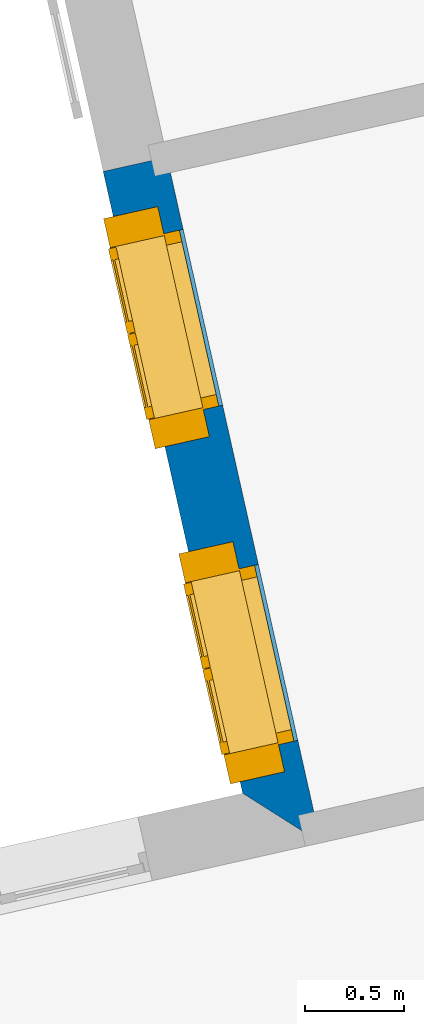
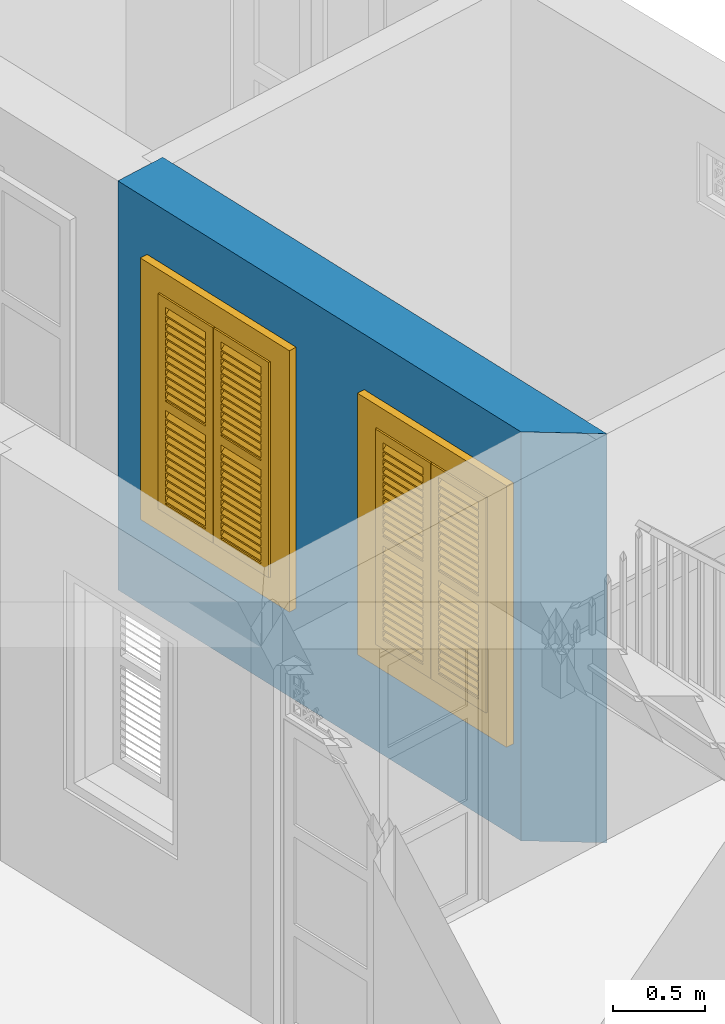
# One storey, part 7 of 13: 2 windows, 1 wall, 2 openings.
"""IFC4 building model written with IfcOpenShell, lengths in metres."""

from ifc_helpers import new_model, si_unit, frame, origin, origin_with_axes, place, context, subcontext, project, spatial, polyline, outline, extrude, faceted_brep, source, transform, mapped, material, layer, layer_set, layer_usage, type_object, type_shapes, element, fill, save


model = new_model("IFC4")

# Units and contexts
model_context = context("Model", 3, world=origin_with_axes())
body_context = subcontext(model_context, "Body", "Model", "MODEL_VIEW")
ifc_project = project(units=[si_unit("PLANEANGLEUNIT", "RADIAN"), si_unit("MASSUNIT", "GRAM", prefix="KILO"), si_unit("FORCEUNIT", "NEWTON", prefix="KILO"), si_unit("LENGTHUNIT", "METRE"), si_unit("AREAUNIT", "SQUARE_METRE"), si_unit("VOLUMEUNIT", "CUBIC_METRE")], contexts=[model_context, model_context])

# Site, building, storey
site_placement = place(None, origin_with_axes())
site = spatial("IfcSite", under=ifc_project, at=site_placement, Name="Site plot-10", CompositionType="ELEMENT")
building_placement = place(None, origin_with_axes())
building = spatial("IfcBuilding", under=site, at=building_placement, Name="Building plot-10", CompositionType="ELEMENT")
storey_placement = place(None, origin_with_axes())
storey = spatial("IfcBuildingStorey", under=building, at=storey_placement, Name="plot-10 0", CompositionType="ELEMENT", Elevation=0.0)

# Wall, openings, windows
ifc_material = material(Name="Masonry")
ifc_layer = layer(ifc_material, 0.33, ventilated=False)
ifc_layer_set = layer_set([ifc_layer], Name="exterior_0.08_0.25")
ifc_layer_usage = layer_usage(ifc_layer_set, "AXIS2", "POSITIVE", -0.25)
wall_type = type_object("IfcWallType", Name="exterior_0.08_0.25", PredefinedType="SOLIDWALL", material=ifc_layer_set)
wall_placement = place(storey_placement, frame((-18.5583057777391, 14.753772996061, 0.0), z_axis=(0.0, 0.0, 1.0), x_axis=(0.218925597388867, -0.975741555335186, 0.0)))
wall = element("IfcWall", 1, at=wall_placement, inside=storey, type_object=wall_type, material=ifc_layer_usage, Name="exterior", context=body_context, shape_type="SweptSolid", body=[
    extrude(outline(polyline([(8.93077006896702e-16, 0.0799999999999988), (-6.92930700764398e-15, -0.25), (3.21644150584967, -0.250000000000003), (3.54644150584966, 0.080000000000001), (8.93077006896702e-16, 0.0799999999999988)])), origin_with_axes(), (0.0, 0.0, 1.0), 2.7),
])
opening_1_placement = place(wall_placement, frame((0.373220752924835, 0.0, 0.75)))
opening_1 = element("IfcOpeningElement", 2, at=opening_1_placement, cuts=wall, Name="My Opening", ObjectType="Opening", context=body_context, shape_type="SweptSolid", body=[
    extrude(outline(polyline([(0.0, -0.269999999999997), (0.91, -0.269999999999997), (0.909999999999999, 1.1), (-6.66133814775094e-16, 1.1), (0.0, -0.269999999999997)])), origin_with_axes(), (0.0, 0.0, 1.0), 1.445),
])
opening_2_placement = place(wall_placement, frame((2.10644150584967, 0.0, 0.75)))
opening_2 = element("IfcOpeningElement", 3, at=opening_2_placement, cuts=wall, Name="My Opening", ObjectType="Opening", context=body_context, shape_type="SweptSolid", body=[
    extrude(outline(polyline([(0.0, -0.270000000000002), (0.91, -0.270000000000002), (0.91, 1.1), (0.0, 1.1), (0.0, -0.270000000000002)])), origin_with_axes(), (0.0, 0.0, 1.0), 1.445),
])
window_type = type_object("IfcWindowType", Name="shuttered_shorter", PartitioningType="DOUBLE_PANEL_HORIZONTAL", PredefinedType="NOTDEFINED")
shared_shape = source(origin(), body_context, "Body", "Brep", [
    faceted_brep([(0.393, 0.0, 0.622), (0.074, 0.0, 0.622), (0.074, 0.0, 0.632), (0.393, 0.0, 0.632), (0.074, -0.04, 0.592), (0.393, -0.04, 0.592), (0.393, -0.04, 0.582), (0.074, -0.04, 0.582), (0.517, 0.0, 0.682), (0.836, 0.0, 0.682), (0.836, 0.0, 0.672), (0.517, 0.0, 0.672), (0.517, -0.04, 0.642), (0.836, -0.04, 0.642), (0.836, -0.04, 0.632), (0.517, -0.04, 0.632), (0.517, 0.0, 0.632), (0.836, 0.0, 0.632), (0.836, 0.0, 0.622), (0.517, 0.0, 0.622), (0.517, -0.04, 0.592), (0.836, -0.04, 0.592), (0.836, -0.04, 0.582), (0.517, -0.04, 0.582), (0.517, 0.0, 0.232), (0.836, 0.0, 0.232), (0.836, 0.0, 0.222), (0.517, 0.0, 0.222), (0.517, -0.04, 0.192), (0.836, -0.04, 0.192), (0.836, -0.04, 0.182), (0.517, -0.04, 0.182), (0.517, 0.0, 0.532), (0.836, 0.0, 0.532), (0.836, 0.0, 0.522), (0.517, 0.0, 0.522), (0.517, -0.04, 0.492), (0.836, -0.04, 0.492), (0.836, -0.04, 0.482), (0.517, -0.04, 0.482), (0.517, 0.0, 0.482), (0.836, 0.0, 0.482), (0.836, 0.0, 0.472), (0.517, 0.0, 0.472), (0.517, -0.04, 0.442), (0.836, -0.04, 0.442), (0.836, -0.04, 0.432), (0.517, -0.04, 0.432), (0.517, 0.0, 0.582), (0.836, 0.0, 0.582), (0.836, 0.0, 0.572), (0.517, 0.0, 0.572), (0.517, -0.04, 0.542), (0.836, -0.04, 0.542), (0.836, -0.04, 0.532), (0.517, -0.04, 0.532), (0.517, 0.0, 0.182), (0.836, 0.0, 0.182), (0.836, 0.0, 0.172), (0.517, 0.0, 0.172), (0.517, -0.04, 0.142), (0.836, -0.04, 0.142), (0.836, -0.04, 0.132), (0.517, -0.04, 0.132), (0.517, 0.0, 0.382), (0.836, 0.0, 0.382), (0.836, 0.0, 0.372), (0.517, 0.0, 0.372), (0.517, -0.04, 0.342), (0.836, -0.04, 0.342), (0.836, -0.04, 0.332), (0.517, -0.04, 0.332), (0.517, 0.0, 0.432), (0.836, 0.0, 0.432), (0.836, 0.0, 0.422), (0.517, 0.0, 0.422), (0.517, -0.04, 0.392), (0.836, -0.04, 0.392), (0.836, -0.04, 0.382), (0.517, -0.04, 0.382), (0.517, 0.0, 0.132), (0.836, 0.0, 0.132), (0.836, 0.0, 0.122), (0.517, 0.0, 0.122), (0.517, -0.04, 0.092), (0.836, -0.04, 0.092), (0.836, -0.04, 0.082), (0.517, -0.04, 0.082), (0.517, 0.0, 0.282), (0.836, 0.0, 0.282), (0.836, 0.0, 0.272), (0.517, 0.0, 0.272), (0.517, -0.04, 0.242), (0.836, -0.04, 0.242), (0.836, -0.04, 0.232), (0.517, -0.04, 0.232), (0.517, 0.0, 0.332), (0.836, 0.0, 0.332), (0.836, 0.0, 0.322), (0.517, 0.0, 0.322), (0.517, -0.04, 0.292), (0.836, -0.04, 0.292), (0.836, -0.04, 0.282), (0.517, -0.04, 0.282), (0.517, 0.0, 1.362667), (0.836, 0.0, 1.362667), (0.836, 0.0, 1.352667), (0.517, 0.0, 1.352667), (0.517, -0.04, 1.322667), (0.836, -0.04, 1.322667), (0.836, -0.04, 1.312667), (0.517, -0.04, 1.312667), (0.517, 0.0, 1.312667), (0.836, 0.0, 1.312667), (0.836, 0.0, 1.302667), (0.517, 0.0, 1.302667), (0.517, -0.04, 1.272667), (0.836, -0.04, 1.272667), (0.836, -0.04, 1.262667), (0.517, -0.04, 1.262667), (0.517, 0.0, 0.912667), (0.836, 0.0, 0.912667), (0.836, 0.0, 0.902667), (0.517, 0.0, 0.902667), (0.517, -0.04, 0.872667), (0.836, -0.04, 0.872667), (0.836, -0.04, 0.862667), (0.517, -0.04, 0.862667), (0.517, 0.0, 1.212667), (0.836, 0.0, 1.212667), (0.836, 0.0, 1.202667), (0.517, 0.0, 1.202667), (0.517, -0.04, 1.172667), (0.836, -0.04, 1.172667), (0.836, -0.04, 1.162667), (0.517, -0.04, 1.162667), (0.517, 0.0, 1.162667), (0.836, 0.0, 1.162667), (0.836, 0.0, 1.152667), (0.517, 0.0, 1.152667), (0.517, -0.04, 1.122667), (0.836, -0.04, 1.122667), (0.836, -0.04, 1.112667), (0.517, -0.04, 1.112667), (0.517, 0.0, 1.262667), (0.836, 0.0, 1.262667), (0.836, 0.0, 1.252667), (0.517, 0.0, 1.252667), (0.517, -0.04, 1.222667), (0.836, -0.04, 1.222667), (0.836, -0.04, 1.212667), (0.517, -0.04, 1.212667), (0.517, 0.0, 0.862667), (0.836, 0.0, 0.862667), (0.836, 0.0, 0.852667), (0.517, 0.0, 0.852667), (0.517, -0.04, 0.822667), (0.836, -0.04, 0.822667), (0.836, -0.04, 0.812667), (0.517, -0.04, 0.812667), (0.517, 0.0, 1.062667), (0.836, 0.0, 1.062667), (0.836, 0.0, 1.052667), (0.517, 0.0, 1.052667), (0.517, -0.04, 1.022667), (0.836, -0.04, 1.022667), (0.836, -0.04, 1.012667), (0.517, -0.04, 1.012667), (0.517, 0.0, 1.112667), (0.836, 0.0, 1.112667), (0.836, 0.0, 1.102667), (0.517, 0.0, 1.102667), (0.517, -0.04, 1.072667), (0.836, -0.04, 1.072667), (0.836, -0.04, 1.062667), (0.517, -0.04, 1.062667), (0.517, 0.0, 0.812667), (0.836, 0.0, 0.812667), (0.836, 0.0, 0.802667), (0.517, 0.0, 0.802667), (0.517, -0.04, 0.772667), (0.836, -0.04, 0.772667), (0.836, -0.04, 0.762667), (0.517, -0.04, 0.762667), (0.517, 0.0, 0.962667), (0.836, 0.0, 0.962667), (0.836, 0.0, 0.952667), (0.517, 0.0, 0.952667), (0.517, -0.04, 0.922667), (0.836, -0.04, 0.922667), (0.836, -0.04, 0.912667), (0.517, -0.04, 0.912667), (0.517, 0.0, 1.012667), (0.836, 0.0, 1.012667), (0.836, 0.0, 1.002667), (0.517, 0.0, 1.002667), (0.517, -0.04, 0.972667), (0.836, -0.04, 0.972667), (0.836, -0.04, 0.962667), (0.517, -0.04, 0.962667), (0.074, 0.0, 0.682), (0.393, 0.0, 0.682), (0.393, 0.0, 0.672), (0.074, 0.0, 0.672), (0.074, -0.04, 0.642), (0.393, -0.04, 0.642), (0.393, -0.04, 0.632), (0.074, -0.04, 0.632), (0.074, 0.0, 0.232), (0.393, 0.0, 0.232), (0.393, 0.0, 0.222), (0.074, 0.0, 0.222), (0.074, -0.04, 0.192), (0.393, -0.04, 0.192), (0.393, -0.04, 0.182), (0.074, -0.04, 0.182), (0.074, 0.0, 0.532), (0.393, 0.0, 0.532), (0.393, 0.0, 0.522), (0.074, 0.0, 0.522), (0.074, -0.04, 0.492), (0.393, -0.04, 0.492), (0.393, -0.04, 0.482), (0.074, -0.04, 0.482), (0.074, 0.0, 0.482), (0.393, 0.0, 0.482), (0.393, 0.0, 0.472), (0.074, 0.0, 0.472), (0.074, -0.04, 0.442), (0.393, -0.04, 0.442), (0.393, -0.04, 0.432), (0.074, -0.04, 0.432), (0.074, 0.0, 0.582), (0.393, 0.0, 0.582), (0.393, 0.0, 0.572), (0.074, 0.0, 0.572), (0.074, -0.04, 0.542), (0.393, -0.04, 0.542), (0.393, -0.04, 0.532), (0.074, -0.04, 0.532), (0.074, 0.0, 0.182), (0.393, 0.0, 0.182), (0.393, 0.0, 0.172), (0.074, 0.0, 0.172), (0.074, -0.04, 0.142), (0.393, -0.04, 0.142), (0.393, -0.04, 0.132), (0.074, -0.04, 0.132), (0.074, 0.0, 0.382), (0.393, 0.0, 0.382), (0.393, 0.0, 0.372), (0.074, 0.0, 0.372), (0.074, -0.04, 0.342), (0.393, -0.04, 0.342), (0.393, -0.04, 0.332), (0.074, -0.04, 0.332), (0.074, 0.0, 0.432), (0.393, 0.0, 0.432), (0.393, 0.0, 0.422), (0.074, 0.0, 0.422), (0.074, -0.04, 0.392), (0.393, -0.04, 0.392), (0.393, -0.04, 0.382), (0.074, -0.04, 0.382), (0.074, 0.0, 0.132), (0.393, 0.0, 0.132), (0.393, 0.0, 0.122), (0.074, 0.0, 0.122), (0.074, -0.04, 0.092), (0.393, -0.04, 0.092), (0.393, -0.04, 0.082), (0.074, -0.04, 0.082), (0.074, 0.0, 0.282), (0.393, 0.0, 0.282), (0.393, 0.0, 0.272), (0.074, 0.0, 0.272), (0.074, -0.04, 0.242), (0.393, -0.04, 0.242), (0.393, -0.04, 0.232), (0.074, -0.04, 0.232), (0.074, 0.0, 0.332), (0.393, 0.0, 0.332), (0.393, 0.0, 0.322), (0.074, 0.0, 0.322), (0.074, -0.04, 0.292), (0.393, -0.04, 0.292), (0.393, -0.04, 0.282), (0.074, -0.04, 0.282), (0.074, 0.0, 1.362667), (0.393, 0.0, 1.362667), (0.393, 0.0, 1.352667), (0.074, 0.0, 1.352667), (0.074, -0.04, 1.322667), (0.393, -0.04, 1.322667), (0.393, -0.04, 1.312667), (0.074, -0.04, 1.312667), (0.074, 0.0, 1.312667), (0.393, 0.0, 1.312667), (0.393, 0.0, 1.302667), (0.074, 0.0, 1.302667), (0.074, -0.04, 1.272667), (0.393, -0.04, 1.272667), (0.393, -0.04, 1.262667), (0.074, -0.04, 1.262667), (0.074, 0.0, 0.912667), (0.393, 0.0, 0.912667), (0.393, 0.0, 0.902667), (0.074, 0.0, 0.902667), (0.074, -0.04, 0.872667), (0.393, -0.04, 0.872667), (0.393, -0.04, 0.862667), (0.074, -0.04, 0.862667), (0.074, 0.0, 1.212667), (0.393, 0.0, 1.212667), (0.393, 0.0, 1.202667), (0.074, 0.0, 1.202667), (0.074, -0.04, 1.172667), (0.393, -0.04, 1.172667), (0.393, -0.04, 1.162667), (0.074, -0.04, 1.162667), (0.074, 0.0, 1.162667), (0.393, 0.0, 1.162667), (0.393, 0.0, 1.152667), (0.074, 0.0, 1.152667), (0.074, -0.04, 1.122667), (0.393, -0.04, 1.122667), (0.393, -0.04, 1.112667), (0.074, -0.04, 1.112667), (0.074, 0.0, 1.262667), (0.393, 0.0, 1.262667), (0.393, 0.0, 1.252667), (0.074, 0.0, 1.252667), (0.074, -0.04, 1.222667), (0.393, -0.04, 1.222667), (0.393, -0.04, 1.212667), (0.074, -0.04, 1.212667), (0.074, 0.0, 0.862667), (0.393, 0.0, 0.862667), (0.393, 0.0, 0.852667), (0.074, 0.0, 0.852667), (0.074, -0.04, 0.822667), (0.393, -0.04, 0.822667), (0.393, -0.04, 0.812667), (0.074, -0.04, 0.812667), (0.074, 0.0, 1.062667), (0.393, 0.0, 1.062667), (0.393, 0.0, 1.052667), (0.074, 0.0, 1.052667), (0.074, -0.04, 1.022667), (0.393, -0.04, 1.022667), (0.393, -0.04, 1.012667), (0.074, -0.04, 1.012667), (0.074, 0.0, 1.112667), (0.393, 0.0, 1.112667), (0.393, 0.0, 1.102667), (0.074, 0.0, 1.102667), (0.074, -0.04, 1.072667), (0.393, -0.04, 1.072667), (0.393, -0.04, 1.062667), (0.074, -0.04, 1.062667), (0.074, 0.0, 0.812667), (0.393, 0.0, 0.812667), (0.393, 0.0, 0.802667), (0.074, 0.0, 0.802667), (0.074, -0.04, 0.772667), (0.393, -0.04, 0.772667), (0.393, -0.04, 0.762667), (0.074, -0.04, 0.762667), (0.074, 0.0, 0.962667), (0.393, 0.0, 0.962667), (0.393, 0.0, 0.952667), (0.074, 0.0, 0.952667), (0.074, -0.04, 0.922667), (0.393, -0.04, 0.922667), (0.393, -0.04, 0.912667), (0.074, -0.04, 0.912667), (0.074, 0.0, 1.012667), (0.393, 0.0, 1.012667), (0.393, 0.0, 1.002667), (0.074, 0.0, 1.002667), (0.074, -0.04, 0.972667), (0.393, -0.04, 0.972667), (0.393, -0.04, 0.962667), (0.074, -0.04, 0.962667), (0.517, -0.04, 0.072), (0.457, -0.04, 0.012), (0.896, -0.04, 0.012), (0.836, -0.04, 0.072), (0.457, -0.04, 0.692667), (0.517, -0.04, 0.692667), (0.457, 0.0, 0.012), (0.896, 0.0, 0.012), (0.836, -0.04, 0.692667), (0.896, -0.04, 0.692667), (0.836, 0.0, 0.072), (0.517, 0.0, 0.072), (0.457, 0.0, 0.692667), (0.517, 0.0, 0.692667), (0.517, -0.04, 0.752666), (0.457, -0.04, 0.752666), (0.896, 0.0, 0.692667), (0.836, 0.0, 0.692667), (0.836, -0.04, 0.752666), (0.896, -0.04, 0.752666), (0.457, 0.0, 0.752666), (0.457, -0.04, 1.433333), (0.517, -0.04, 1.373333), (0.896, 0.0, 0.752666), (0.836, -0.04, 1.373333), (0.896, -0.04, 1.433333), (0.457, 0.0, 1.433333), (0.517, 0.0, 0.752666), (0.836, 0.0, 0.752666), (0.517, 0.0, 1.373333), (0.896, 0.0, 1.433333), (0.836, 0.0, 1.373333), (0.074, -0.04, 0.072), (0.014, -0.04, 0.012), (0.453, -0.04, 0.012), (0.393, -0.04, 0.072), (0.014, -0.04, 0.692667), (0.074, -0.04, 0.692667), (0.014, 0.0, 0.012), (0.453, 0.0, 0.012), (0.393, -0.04, 0.692667), (0.453, -0.04, 0.692667), (0.393, 0.0, 0.072), (0.074, 0.0, 0.072), (0.014, 0.0, 0.692667), (0.074, 0.0, 0.692667), (0.074, -0.04, 0.752666), (0.014, -0.04, 0.752666), (0.453, 0.0, 0.692667), (0.393, 0.0, 0.692667), (0.393, -0.04, 0.752666), (0.453, -0.04, 0.752666), (0.014, 0.0, 0.752666), (0.014, -0.04, 1.433333), (0.074, -0.04, 1.373333), (0.453, 0.0, 0.752666), (0.393, -0.04, 1.373333), (0.453, -0.04, 1.433333), (0.014, 0.0, 1.433333), (0.074, 0.0, 0.752666), (0.393, 0.0, 0.752666), (0.074, 0.0, 1.373333), (0.453, 0.0, 1.433333), (0.393, 0.0, 1.373333), (0.0, 0.33, 1.445), (0.91, 0.33, 1.445), (0.85, 0.33, 1.385), (0.06, 0.33, 1.385), (0.91, 0.25, 1.445), (0.0, 0.25, 1.445), (0.91, 0.25, 1.445), (0.85, 0.33, 0.06), (0.91, 0.33, 0.0), (0.85, 0.25, 1.385), (0.06, 0.25, 1.385), (0.0, 0.33, 0.0), (0.06, 0.33, 0.06), (0.0, 0.25, 0.0), (0.91, 0.25, 0.0), (0.85, 0.25, 0.06), (0.06, 0.25, 0.06), (1.05, 0.25, 1.585), (-0.14, 0.25, 1.585), (-0.14, -0.03, 1.585), (1.05, -0.03, 1.585), (0.9, -0.03, 1.435), (0.01, -0.03, 1.435), (0.01, 0.25, 1.435), (0.9, 0.25, 1.435), (0.9, 0.25, 0.01), (0.9, -0.03, 0.01), (1.05, -0.03, -0.14), (1.05, 0.25, -0.14), (0.01, -0.03, 0.01), (0.01, 0.25, 0.01), (-0.14, -0.03, -0.14), (-0.14, 0.25, -0.14)], [[[0, 1, 2, 3]], [[4, 5, 3, 2]], [[5, 6, 0, 3]], [[1, 0, 6, 7]], [[2, 1, 7, 4]], [[5, 4, 7, 6]], [[8, 9, 10, 11]], [[12, 13, 9, 8]], [[13, 14, 10, 9]], [[14, 15, 11, 10]], [[15, 12, 8, 11]], [[13, 12, 15, 14]], [[16, 17, 18, 19]], [[20, 21, 17, 16]], [[21, 22, 18, 17]], [[22, 23, 19, 18]], [[23, 20, 16, 19]], [[21, 20, 23, 22]], [[24, 25, 26, 27]], [[28, 29, 25, 24]], [[29, 30, 26, 25]], [[30, 31, 27, 26]], [[31, 28, 24, 27]], [[29, 28, 31, 30]], [[32, 33, 34, 35]], [[36, 37, 33, 32]], [[37, 38, 34, 33]], [[38, 39, 35, 34]], [[39, 36, 32, 35]], [[37, 36, 39, 38]], [[40, 41, 42, 43]], [[44, 45, 41, 40]], [[45, 46, 42, 41]], [[46, 47, 43, 42]], [[47, 44, 40, 43]], [[45, 44, 47, 46]], [[48, 49, 50, 51]], [[52, 53, 49, 48]], [[53, 54, 50, 49]], [[54, 55, 51, 50]], [[55, 52, 48, 51]], [[53, 52, 55, 54]], [[56, 57, 58, 59]], [[60, 61, 57, 56]], [[61, 62, 58, 57]], [[62, 63, 59, 58]], [[63, 60, 56, 59]], [[61, 60, 63, 62]], [[64, 65, 66, 67]], [[68, 69, 65, 64]], [[69, 70, 66, 65]], [[70, 71, 67, 66]], [[71, 68, 64, 67]], [[69, 68, 71, 70]], [[72, 73, 74, 75]], [[76, 77, 73, 72]], [[77, 78, 74, 73]], [[78, 79, 75, 74]], [[79, 76, 72, 75]], [[77, 76, 79, 78]], [[80, 81, 82, 83]], [[84, 85, 81, 80]], [[85, 86, 82, 81]], [[86, 87, 83, 82]], [[87, 84, 80, 83]], [[85, 84, 87, 86]], [[88, 89, 90, 91]], [[92, 93, 89, 88]], [[93, 94, 90, 89]], [[94, 95, 91, 90]], [[95, 92, 88, 91]], [[93, 92, 95, 94]], [[96, 97, 98, 99]], [[100, 101, 97, 96]], [[101, 102, 98, 97]], [[102, 103, 99, 98]], [[103, 100, 96, 99]], [[101, 100, 103, 102]], [[104, 105, 106, 107]], [[108, 109, 105, 104]], [[109, 110, 106, 105]], [[110, 111, 107, 106]], [[111, 108, 104, 107]], [[109, 108, 111, 110]], [[112, 113, 114, 115]], [[116, 117, 113, 112]], [[117, 118, 114, 113]], [[118, 119, 115, 114]], [[119, 116, 112, 115]], [[117, 116, 119, 118]], [[120, 121, 122, 123]], [[124, 125, 121, 120]], [[125, 126, 122, 121]], [[126, 127, 123, 122]], [[127, 124, 120, 123]], [[125, 124, 127, 126]], [[128, 129, 130, 131]], [[132, 133, 129, 128]], [[133, 134, 130, 129]], [[134, 135, 131, 130]], [[135, 132, 128, 131]], [[133, 132, 135, 134]], [[136, 137, 138, 139]], [[140, 141, 137, 136]], [[141, 142, 138, 137]], [[142, 143, 139, 138]], [[139, 143, 140, 136]], [[141, 140, 143, 142]], [[144, 145, 146, 147]], [[148, 149, 145, 144]], [[149, 150, 146, 145]], [[150, 151, 147, 146]], [[151, 148, 144, 147]], [[149, 148, 151, 150]], [[152, 153, 154, 155]], [[156, 157, 153, 152]], [[157, 158, 154, 153]], [[158, 159, 155, 154]], [[159, 156, 152, 155]], [[157, 156, 159, 158]], [[160, 161, 162, 163]], [[164, 165, 161, 160]], [[165, 166, 162, 161]], [[166, 167, 163, 162]], [[167, 164, 160, 163]], [[165, 164, 167, 166]], [[168, 169, 170, 171]], [[172, 173, 169, 168]], [[173, 174, 170, 169]], [[174, 175, 171, 170]], [[175, 172, 168, 171]], [[173, 172, 175, 174]], [[176, 177, 178, 179]], [[180, 181, 177, 176]], [[181, 182, 178, 177]], [[182, 183, 179, 178]], [[183, 180, 176, 179]], [[181, 180, 183, 182]], [[184, 185, 186, 187]], [[188, 189, 185, 184]], [[189, 190, 186, 185]], [[190, 191, 187, 186]], [[191, 188, 184, 187]], [[189, 188, 191, 190]], [[192, 193, 194, 195]], [[196, 197, 193, 192]], [[197, 198, 194, 193]], [[198, 199, 195, 194]], [[199, 196, 192, 195]], [[197, 196, 199, 198]], [[200, 201, 202, 203]], [[204, 205, 201, 200]], [[205, 206, 202, 201]], [[206, 207, 203, 202]], [[207, 204, 200, 203]], [[205, 204, 207, 206]], [[208, 209, 210, 211]], [[212, 213, 209, 208]], [[213, 214, 210, 209]], [[214, 215, 211, 210]], [[215, 212, 208, 211]], [[213, 212, 215, 214]], [[216, 217, 218, 219]], [[220, 221, 217, 216]], [[221, 222, 218, 217]], [[222, 223, 219, 218]], [[223, 220, 216, 219]], [[221, 220, 223, 222]], [[224, 225, 226, 227]], [[228, 229, 225, 224]], [[229, 230, 226, 225]], [[230, 231, 227, 226]], [[231, 228, 224, 227]], [[229, 228, 231, 230]], [[232, 233, 234, 235]], [[236, 237, 233, 232]], [[237, 238, 234, 233]], [[238, 239, 235, 234]], [[239, 236, 232, 235]], [[237, 236, 239, 238]], [[240, 241, 242, 243]], [[244, 245, 241, 240]], [[245, 246, 242, 241]], [[246, 247, 243, 242]], [[247, 244, 240, 243]], [[245, 244, 247, 246]], [[248, 249, 250, 251]], [[252, 253, 249, 248]], [[253, 254, 250, 249]], [[254, 255, 251, 250]], [[255, 252, 248, 251]], [[253, 252, 255, 254]], [[256, 257, 258, 259]], [[260, 261, 257, 256]], [[261, 262, 258, 257]], [[262, 263, 259, 258]], [[263, 260, 256, 259]], [[261, 260, 263, 262]], [[264, 265, 266, 267]], [[268, 269, 265, 264]], [[269, 270, 266, 265]], [[270, 271, 267, 266]], [[271, 268, 264, 267]], [[269, 268, 271, 270]], [[272, 273, 274, 275]], [[276, 277, 273, 272]], [[277, 278, 274, 273]], [[278, 279, 275, 274]], [[279, 276, 272, 275]], [[277, 276, 279, 278]], [[280, 281, 282, 283]], [[284, 285, 281, 280]], [[285, 286, 282, 281]], [[286, 287, 283, 282]], [[287, 284, 280, 283]], [[285, 284, 287, 286]], [[288, 289, 290, 291]], [[292, 293, 289, 288]], [[293, 294, 290, 289]], [[294, 295, 291, 290]], [[295, 292, 288, 291]], [[293, 292, 295, 294]], [[296, 297, 298, 299]], [[300, 301, 297, 296]], [[301, 302, 298, 297]], [[302, 303, 299, 298]], [[303, 300, 296, 299]], [[301, 300, 303, 302]], [[304, 305, 306, 307]], [[308, 309, 305, 304]], [[309, 310, 306, 305]], [[310, 311, 307, 306]], [[311, 308, 304, 307]], [[309, 308, 311, 310]], [[312, 313, 314, 315]], [[316, 317, 313, 312]], [[317, 318, 314, 313]], [[318, 319, 315, 314]], [[319, 316, 312, 315]], [[317, 316, 319, 318]], [[320, 321, 322, 323]], [[324, 325, 321, 320]], [[325, 326, 322, 321]], [[326, 327, 323, 322]], [[327, 324, 320, 323]], [[325, 324, 327, 326]], [[328, 329, 330, 331]], [[332, 333, 329, 328]], [[333, 334, 330, 329]], [[334, 335, 331, 330]], [[335, 332, 328, 331]], [[333, 332, 335, 334]], [[336, 337, 338, 339]], [[340, 341, 337, 336]], [[341, 342, 338, 337]], [[342, 343, 339, 338]], [[343, 340, 336, 339]], [[341, 340, 343, 342]], [[344, 345, 346, 347]], [[348, 349, 345, 344]], [[349, 350, 346, 345]], [[350, 351, 347, 346]], [[351, 348, 344, 347]], [[349, 348, 351, 350]], [[352, 353, 354, 355]], [[356, 357, 353, 352]], [[357, 358, 354, 353]], [[358, 359, 355, 354]], [[359, 356, 352, 355]], [[357, 356, 359, 358]], [[360, 361, 362, 363]], [[364, 365, 361, 360]], [[365, 366, 362, 361]], [[366, 367, 363, 362]], [[367, 364, 360, 363]], [[365, 364, 367, 366]], [[368, 369, 370, 371]], [[372, 373, 369, 368]], [[373, 374, 370, 369]], [[374, 375, 371, 370]], [[375, 372, 368, 371]], [[373, 372, 375, 374]], [[376, 377, 378, 379]], [[380, 381, 377, 376]], [[381, 382, 378, 377]], [[382, 383, 379, 378]], [[383, 380, 376, 379]], [[381, 380, 383, 382]], [[384, 385, 386, 387]], [[388, 385, 384, 389]], [[390, 391, 386, 385]], [[392, 387, 386, 393]], [[384, 387, 394, 395]], [[390, 385, 388, 396]], [[389, 384, 395, 397]], [[389, 398, 399, 388]], [[390, 395, 394, 391]], [[400, 393, 386, 391]], [[387, 392, 401, 394]], [[402, 392, 393, 403]], [[396, 388, 399, 404]], [[390, 396, 397, 395]], [[392, 389, 397, 401]], [[398, 389, 392, 402]], [[405, 399, 398, 406]], [[394, 401, 400, 391]], [[407, 403, 393, 400]], [[408, 402, 403, 409]], [[404, 399, 405, 410]], [[411, 397, 396, 404]], [[397, 411, 412, 401]], [[398, 402, 412, 411]], [[406, 398, 411, 413]], [[405, 406, 408, 409]], [[401, 412, 407, 400]], [[414, 409, 403, 407]], [[402, 408, 415, 412]], [[405, 409, 414, 410]], [[404, 410, 413, 411]], [[408, 406, 413, 415]], [[412, 415, 414, 407]], [[413, 410, 414, 415]], [[416, 417, 418, 419]], [[420, 417, 416, 421]], [[422, 423, 418, 417]], [[424, 419, 418, 425]], [[416, 419, 426, 427]], [[422, 417, 420, 428]], [[421, 416, 427, 429]], [[421, 430, 431, 420]], [[422, 427, 426, 423]], [[432, 425, 418, 423]], [[419, 424, 433, 426]], [[434, 424, 425, 435]], [[428, 420, 431, 436]], [[422, 428, 429, 427]], [[424, 421, 429, 433]], [[430, 421, 424, 434]], [[437, 431, 430, 438]], [[426, 433, 432, 423]], [[439, 435, 425, 432]], [[440, 434, 435, 441]], [[436, 431, 437, 442]], [[443, 429, 428, 436]], [[429, 443, 444, 433]], [[430, 434, 444, 443]], [[438, 430, 443, 445]], [[437, 438, 440, 441]], [[433, 444, 439, 432]], [[446, 441, 435, 439]], [[434, 440, 447, 444]], [[437, 441, 446, 442]], [[436, 442, 445, 443]], [[440, 438, 445, 447]], [[444, 447, 446, 439]], [[445, 442, 446, 447]], [[448, 449, 450, 451]], [[452, 449, 448]], [[448, 453, 454]], [[448, 454, 452]], [[455, 450, 449, 456]], [[451, 450, 457, 458]], [[459, 448, 451, 460]], [[448, 459, 461, 453]], [[454, 453, 458, 457]], [[462, 452, 454]], [[454, 457, 463]], [[454, 463, 462]], [[456, 449, 452, 462]], [[450, 455, 463, 457]], [[456, 459, 460, 455]], [[460, 451, 458, 464]], [[459, 456, 462, 461]], [[464, 458, 453, 461]], [[461, 462, 463, 464]], [[455, 460, 464, 463]], [[465, 466, 467, 468]], [[469, 470, 471, 472]], [[473, 474, 469, 472]], [[465, 468, 475, 476]], [[470, 477, 478, 471]], [[474, 473, 478, 477]], [[474, 477, 479, 475]], [[470, 467, 479, 477]], [[470, 469, 468, 467]], [[474, 475, 468, 469]], [[471, 478, 480, 466]], [[473, 472, 465, 476]], [[473, 476, 480, 478]], [[466, 465, 472, 471]], [[480, 476, 475, 479]], [[480, 479, 467, 466]]]),
])
type_shapes(window_type, [shared_shape])
window_1_placement = place(storey_placement, frame((-18.7400484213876, 14.3304960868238, 0.75), z_axis=(0.0, 0.0, 1.0), x_axis=(0.199222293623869, -0.887924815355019, 0.0)))
window_1 = element("IfcWindow", 4, at=window_1_placement, inside=storey, type_object=window_type, Name="toilet sahn window", OverallHeight=1.445, OverallWidth=0.91, context=body_context, shape_type="MappedRepresentation", body=[
    mapped(shared_shape, transform((0.0, 0.0, 0.0), scale=1.0)),
])
fill(opening_1, window_1)
window_2_placement = place(storey_placement, frame((-18.3606020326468, 12.6393205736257, 0.75), z_axis=(0.0, 0.0, 1.0), x_axis=(0.199222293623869, -0.887924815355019, 0.0)))
window_2 = element("IfcWindow", 5, at=window_2_placement, inside=storey, type_object=window_type, Name="toilet sahn window", OverallHeight=1.445, OverallWidth=0.91, context=body_context, shape_type="MappedRepresentation", body=[
    mapped(shared_shape, transform((0.0, 0.0, 0.0), scale=1.0)),
])
fill(opening_2, window_2)

save(model, "model.ifc")
